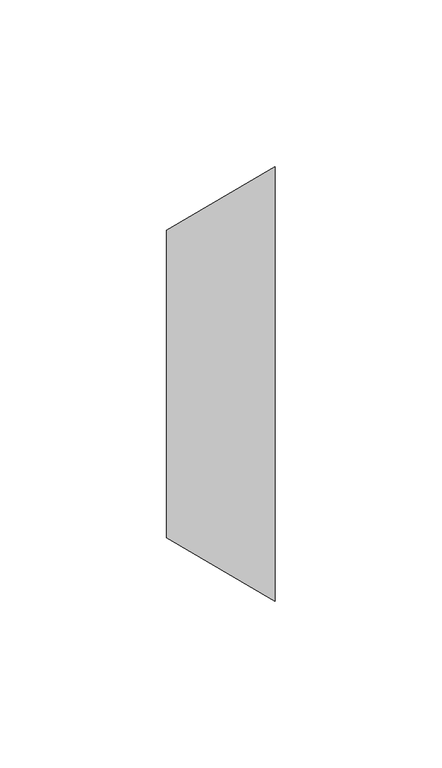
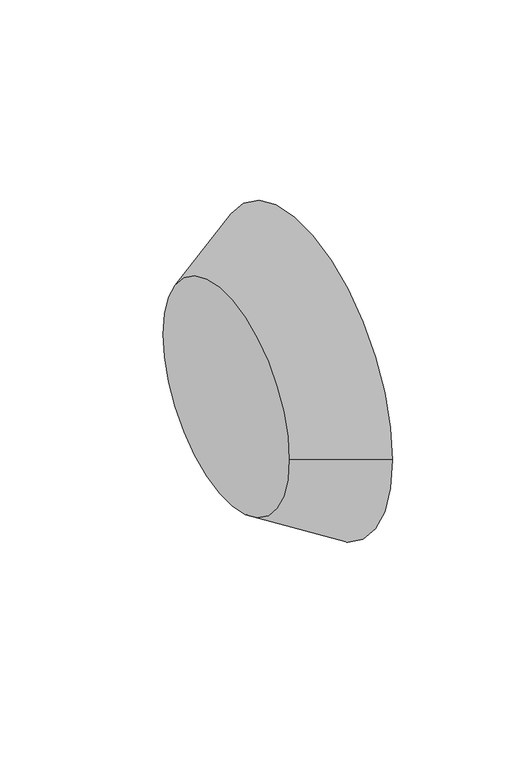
"""IFC4 building model written with IfcOpenShell, lengths in millimetres: pipe fitting geometry, M_Transición - Genérica : Estándar."""

from ifc_helpers import new_model, si_unit, frame, origin, place, context, project, spatial, polyline, circle_curve, source, transform, mapped, element, save
from ifc_brep_helpers import plane_surface, revolved_surface, advanced_brep


def pipe_fitting_4aa6ec84(model_context):
    return source(origin(), model_context, "Body", "AdvancedBrep", [
        advanced_brep(
        [(32.54375, 65.0875, 0.0), (32.54375, -65.0875, 0.0), (0.0, 46.0375, 0.0), (0.0, -46.0375, 0.0)],
        [
            (0, 1, circle_curve(frame((32.54375, 0.0, 0.0), z_axis=(1.0, 0.0, 0.0), x_axis=(0.0, -1.0, 0.0)), 65.0875)),
            (1, 0, circle_curve(frame((32.54375, 0.0, 0.0), z_axis=(1.0, 0.0, 0.0), x_axis=(0.0, 1.0, 0.0)), 65.0875)),
            (2, 3, circle_curve(frame((0.0, 0.0, 0.0), z_axis=(-1.0, 0.0, 0.0), x_axis=(0.0, 1.0, 0.0)), 46.0375)),
            (3, 2, circle_curve(frame((0.0, 0.0, 0.0), z_axis=(-1.0, 0.0, 0.0), x_axis=(0.0, -1.0, 0.0)), 46.0375)),
            (2, 0),
            (1, 3),
        ],
        [
            plane_surface(frame((32.54375, 0.0, 0.0), z_axis=(1.0, 0.0, 0.0), x_axis=(0.0, 0.0, -1.0))),
            plane_surface(frame((0.0, 0.0, 0.0), z_axis=(-1.0, 0.0, 0.0), x_axis=(0.0, 0.0, -1.0))),
            revolved_surface(polyline([(0.0, 46.037499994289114, 0.0), (32.54375, 65.0875, 0.0)]), (-78.6473958, 0.0, 0.0), (1.0, 0.0, 0.0)),
            revolved_surface(polyline([(0.0, -46.037499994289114, 0.0), (32.54375, -65.0875, 0.0)]), (-78.6473958, 0.0, 0.0), (1.0, 0.0, 0.0)),
        ],
        [
            (0, [[1, 2]]),
            (1, [[3, 4]]),
            (2, [[5, -2, 6, -3]]),
            (3, [[-6, -1, -5, -4]]),
        ],
    ),
    ])


if __name__ == "__main__":
    model = new_model("IFC4")
    model_context = context("Model", 3, world=origin())
    ifc_project = project(units=[si_unit("LENGTHUNIT", "METRE", prefix="MILLI")], contexts=[model_context])
    site = spatial("IfcSite", under=ifc_project)
    building = spatial("IfcBuilding", under=site)
    placement = place(None, origin())
    pipe_fitting_shape = pipe_fitting_4aa6ec84(model_context)
    element("IfcPipeFitting", 1, ObjectType="M_Transición - Genérica : Estándar", at=placement, inside=building, context=model_context, shape_type="MappedRepresentation", body=[
        mapped(pipe_fitting_shape, transform((0.0, 0.0, 0.0), x_axis=(1.0, 0.0, 0.0), y_axis=(0.0, 1.0, 0.0), z_axis=(0.0, 0.0, 1.0))),
    ])
    save(model, "model.ifc")
